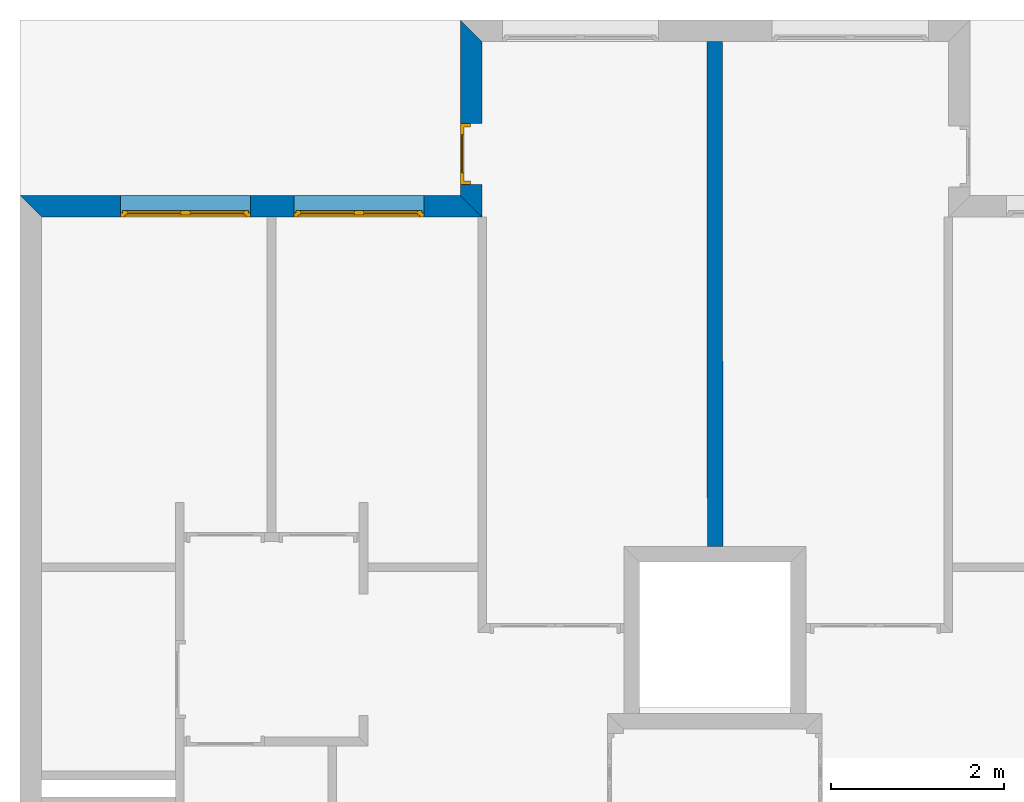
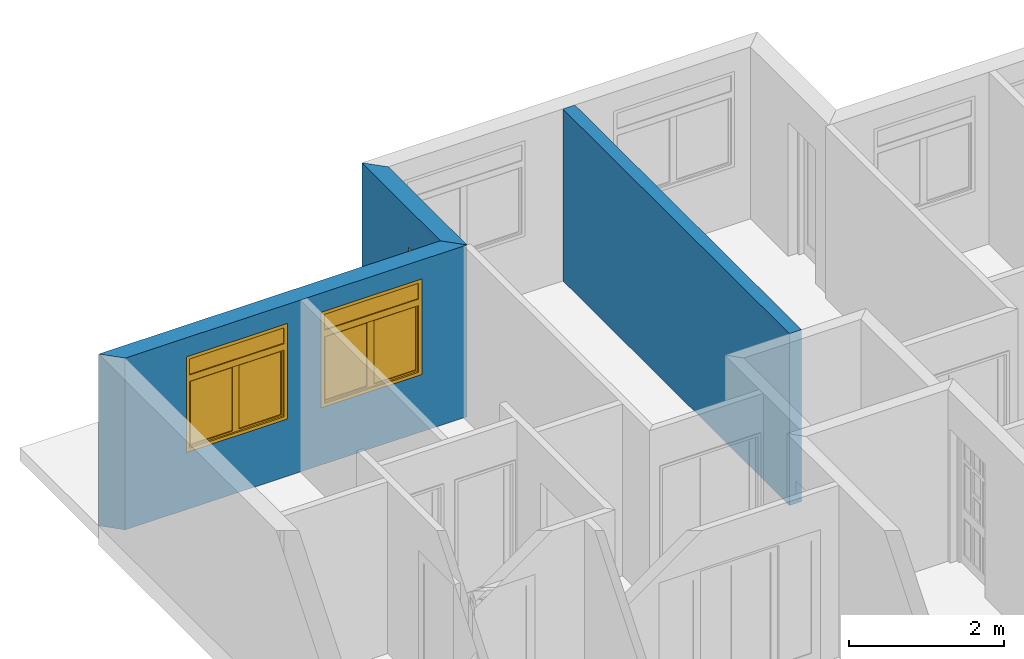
# One storey, part 10 of 12: 3 walls, 2 windows, 1 door, 3 openings.
"""IFC2X3 building model written with IfcOpenShell, lengths in metres."""

from ifc_helpers import new_model, entity, si_unit, converted_unit, direction, frame, frame_2d, origin_with_axes, place, context, project, spatial, polyline, rectangle, outline, extrude, faceted_brep, source, transform, mapped, material, layer, layer_set, layer_usage, type_object, element, fill, save


model = new_model("IFC2X3")

# Units and contexts
context_of_model = context(None, 3, precision=1e-05, world=origin_with_axes(), true_north=direction((6.123234e-17, 1.0)))
plan_context = context("Plan", 3, precision=1e-05, world=origin_with_axes(), true_north=direction((6.123234e-17, 1.0)))
model_context = context("Model", 3, precision=1e-05, world=origin_with_axes(), true_north=direction((6.123234e-17, 1.0)))
ifc_project = project(units=[si_unit("LENGTHUNIT", "METRE"), si_unit("AREAUNIT", "SQUARE_METRE"), si_unit("VOLUMEUNIT", "CUBIC_METRE"), converted_unit("PLANEANGLEUNIT", "DEGREE", entity("IfcPlaneAngleMeasure", 0.017453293), si_unit("PLANEANGLEUNIT", "RADIAN"), dimensions=[0, 0, 0, 0, 0, 0, 0]), si_unit("SOLIDANGLEUNIT", "STERADIAN"), si_unit("MASSUNIT", "GRAM"), si_unit("TIMEUNIT", "SECOND"), si_unit("THERMODYNAMICTEMPERATUREUNIT", "DEGREE_CELSIUS"), si_unit("LUMINOUSINTENSITYUNIT", "LUMEN")], contexts=[context_of_model, plan_context, model_context])

# Site, building, storey
site_placement = place(None, origin_with_axes())
site = spatial("IfcSite", under=ifc_project, at=site_placement, Name="Por defecto Sitio", CompositionType="ELEMENT")
building_placement = place(site_placement, origin_with_axes())
building = spatial("IfcBuilding", under=site, at=building_placement, Name="Por defecto Edificio", CompositionType="ELEMENT")
storey_placement = place(building_placement, frame((0.0, 0.0, 10.2), z_axis=(0.0, 0.0, 1.0), x_axis=(1.0, 0.0, 0.0)))
storey = spatial("IfcBuildingStorey", under=building, at=storey_placement, Name="Tercera", CompositionType="ELEMENT", Elevation=10.2)

# Wall, opening, door
ifc_material = material(Name="Ladrillo común")
ifc_layer_1 = layer(ifc_material, 0.25, ventilated="UNKNOWN")
ifc_layer_set_1 = layer_set([ifc_layer_1], Name="Ladrillo común")
ifc_layer_usage_1 = layer_usage(ifc_layer_set_1, "AXIS2", "NEGATIVE", 0.0)
wall_type_1 = type_object("IfcWallType", Name="Ladrillo común", PredefinedType="NOTDEFINED")
wall_1_placement = place(storey_placement, frame((5.0781164, 13.449173, 0.0), z_axis=(0.0, 0.0, 1.0), x_axis=(0.0, 1.0, 0.0)))
wall_1 = element("IfcWallStandardCase", 1, at=wall_1_placement, inside=storey, type_object=wall_type_1, material=ifc_layer_usage_1, Name="Muro-013", context=context_of_model, shape_type="SweptSolid", body=[
    extrude(outline(polyline([(-0.25, -0.25), (1.7734265, -0.25), (2.0234265, 0.0), (0.0, 0.0), (-0.25, -0.25)])), origin_with_axes(), (0.0, 0.0, 1.0), 2.7),
])
opening_1_placement = place(wall_1_placement, frame((0.47866866, -0.25, 0.0), z_axis=(0.0, 0.0, 1.0), x_axis=(1.0, 0.0, 0.0)))
opening_1 = element("IfcOpeningElement", 2, at=opening_1_placement, cuts=wall_1, ObjectType="Opening", context=model_context, shape_type="SweptSolid", body=[
    extrude(rectangle(XDim=0.7, YDim=2.1, at=frame_2d((0.0, 1.05), x_axis=(-1.0, 0.0))), frame((0.0, 0.0, 0.0), z_axis=(0.0, 1.0, 0.0), x_axis=(-1.0, 0.0, 0.0)), (0.0, 0.0, 1.0), 0.25),
])
door_style = type_object("IfcDoorStyle", Name="P1 12", ConstructionType="NOTDEFINED", OperationType="SINGLE_SWING_LEFT", ParameterTakesPrecedence=False, Sizeable=False)
shared_shape_1 = source(origin_with_axes(), model_context, "Body", "Brep", [
    faceted_brep([(0.66, 0.075, 0.0), (0.66, 0.0, 0.0), (0.66, 0.0, 2.06), (0.66, 0.075, 2.06), (0.672, 0.075, 0.0), (0.672, 0.115, 0.0), (0.7, 0.115, 0.0), (0.7, 0.0, 0.0), (0.7, 0.0, 2.06), (0.672, 0.075, 2.06), (0.7, 0.115, 2.06), (0.672, 0.115, 2.06)], [[[0, 1, 2, 3]], [[4, 5, 6, 7, 1, 0]], [[7, 8, 2, 1]], [[9, 3, 2, 8, 10, 11]], [[9, 4, 0, 3]], [[11, 5, 4, 9]], [[11, 10, 6, 5]], [[8, 7, 6, 10]]]),
    faceted_brep([(0.028, 0.075, 2.06), (0.028, 0.115, 2.06), (-1.4210855e-14, 0.115, 2.06), (-1.4210855e-14, 0.0, 2.06), (0.04, 0.0, 2.06), (0.04, 0.075, 2.06), (0.028, 0.075, 0.0), (0.028, 0.115, 0.0), (-1.4210855e-14, 0.115, 0.0), (0.0, 0.0, 0.0), (0.04, 0.0, 0.0), (0.04, 0.075, 0.0)], [[[0, 1, 2, 3, 4, 5]], [[0, 6, 7, 1]], [[7, 8, 2, 1]], [[9, 3, 2, 8]], [[10, 4, 3, 9]], [[5, 4, 10, 11]], [[5, 11, 6, 0]], [[6, 11, 10, 9, 8, 7]]]),
    faceted_brep([(0.672, 0.115, 2.072), (0.028, 0.115, 2.072), (0.028, 0.115, 2.06), (-1.4210855e-14, 0.115, 2.06), (-1.4210855e-14, 0.115, 2.1), (0.7, 0.115, 2.1), (0.7, 0.115, 2.06), (0.672, 0.115, 2.06), (0.672, 0.075, 2.072), (0.028, 0.075, 2.072), (0.028, 0.075, 2.06), (0.04, 0.075, 2.06), (0.04, 0.0, 2.06), (-1.4210855e-14, 0.0, 2.06), (-1.4210855e-14, 0.0, 2.1), (0.7, 0.0, 2.1), (0.7, 0.0, 2.06), (0.672, 0.075, 2.06), (0.66, 0.0, 2.06), (0.66, 0.075, 2.06)], [[[0, 1, 2, 3, 4, 5, 6, 7]], [[0, 8, 9, 1]], [[1, 9, 10, 2]], [[10, 11, 12, 13, 3, 2]], [[13, 14, 4, 3]], [[14, 15, 5, 4]], [[15, 16, 6, 5]], [[17, 7, 6, 16, 18, 19]], [[7, 17, 8, 0]], [[10, 9, 8, 17, 19, 11]], [[19, 18, 12, 11]], [[14, 13, 12, 18, 16, 15]]]),
    faceted_brep([(0.028, 0.115, 0.2), (0.128, 0.115, 0.2), (0.128, 0.075, 0.2), (0.028, 0.075, 0.2), (0.028, 0.115, 1.972), (0.128, 0.115, 1.972), (0.128, 0.075, 1.972), (0.028, 0.075, 1.972)], [[[0, 1, 2, 3]], [[0, 4, 5, 1]], [[1, 5, 6, 2]], [[3, 2, 6, 7]], [[4, 0, 3, 7]], [[5, 4, 7, 6]]]),
    faceted_brep([(0.672, 0.115, 0.2), (0.672, 0.115, 1.972), (0.672, 0.075, 1.972), (0.672, 0.075, 0.2), (0.572, 0.115, 0.2), (0.572, 0.115, 1.972), (0.572, 0.075, 1.972), (0.572, 0.075, 0.2)], [[[0, 1, 2, 3]], [[0, 4, 5, 1]], [[1, 5, 6, 2]], [[3, 2, 6, 7]], [[4, 0, 3, 7]], [[5, 4, 7, 6]]]),
    faceted_brep([(0.028, 0.115, 0.0), (0.672, 0.115, 0.0), (0.672, 0.075, 0.0), (0.028, 0.075, 0.0), (0.028, 0.115, 0.2), (0.128, 0.115, 0.2), (0.572, 0.115, 0.2), (0.672, 0.115, 0.2), (0.672, 0.075, 0.2), (0.572, 0.075, 0.2), (0.128, 0.075, 0.2), (0.028, 0.075, 0.2)], [[[0, 1, 2, 3]], [[0, 4, 5, 6, 7, 1]], [[1, 7, 8, 2]], [[3, 2, 8, 9, 10, 11]], [[4, 0, 3, 11]], [[5, 4, 11, 10]], [[6, 5, 10, 9]], [[7, 6, 9, 8]]]),
    faceted_brep([(0.028, 0.115, 2.072), (0.028, 0.115, 1.972), (0.028, 0.075, 1.972), (0.028, 0.075, 2.072), (0.672, 0.115, 2.072), (0.672, 0.115, 1.972), (0.572, 0.115, 1.972), (0.128, 0.115, 1.972), (0.128, 0.075, 1.972), (0.572, 0.075, 1.972), (0.672, 0.075, 1.972), (0.672, 0.075, 2.072)], [[[0, 1, 2, 3]], [[0, 4, 5, 6, 7, 1]], [[1, 7, 8, 2]], [[3, 2, 8, 9, 10, 11]], [[4, 0, 3, 11]], [[5, 4, 11, 10]], [[6, 5, 10, 9]], [[7, 6, 9, 8]]]),
    faceted_brep([(0.128, 0.101, 0.2), (0.572, 0.101, 0.2), (0.572, 0.089, 0.2), (0.128, 0.089, 0.2), (0.128, 0.101, 1.972), (0.572, 0.101, 1.972), (0.572, 0.089, 1.972), (0.128, 0.089, 1.972)], [[[0, 1, 2, 3]], [[0, 4, 5, 1]], [[1, 5, 6, 2]], [[3, 2, 6, 7]], [[4, 0, 3, 7]], [[5, 4, 7, 6]]]),
])
door_placement = place(opening_1_placement, frame((-0.35, 0.135, 0.0), z_axis=(0.0, 0.0, 1.0), x_axis=(1.0, 0.0, 0.0)))
door = element("IfcDoor", 3, at=door_placement, inside=storey, type_object=door_style, Name="P20", OverallHeight=2.1, OverallWidth=0.7, context=model_context, shape_type="MappedRepresentation", body=[
    mapped(shared_shape_1, transform((0.0, 0.0, 0.0), scale=1.0)),
])
fill(opening_1, door)

# Wall, openings, windows
ifc_layer_usage_2 = layer_usage(ifc_layer_set_1, "AXIS2", "NEGATIVE", 0.0)
wall_2_placement = place(storey_placement, frame((0.0, 13.449173, 0.0), z_axis=(0.0, 0.0, 1.0), x_axis=(1.0, 0.0, 0.0)))
wall_2 = element("IfcWallStandardCase", 4, at=wall_2_placement, inside=storey, type_object=wall_type_1, material=ifc_layer_usage_2, Name="Muro-012", context=context_of_model, shape_type="SweptSolid", body=[
    extrude(outline(polyline([(0.25, -0.25), (5.3281164, -0.25), (5.0781164, 0.0), (0.0, 0.0), (0.25, -0.25)])), origin_with_axes(), (0.0, 0.0, 1.0), 2.7),
])
opening_2_placement = place(wall_2_placement, frame((3.9080742, -0.25, 0.9), z_axis=(0.0, 0.0, 1.0), x_axis=(1.0, 0.0, 0.0)))
opening_2 = element("IfcOpeningElement", 5, at=opening_2_placement, cuts=wall_2, ObjectType="Opening", context=model_context, shape_type="SweptSolid", body=[
    extrude(rectangle(XDim=1.5, YDim=1.5, at=frame_2d((0.0, 0.75), x_axis=(-1.0, 0.0))), frame((0.0, 0.0, 0.0), z_axis=(0.0, 1.0, 0.0), x_axis=(-1.0, 0.0, 0.0)), (0.0, 0.0, 1.0), 0.25),
])
opening_3_placement = place(wall_2_placement, frame((1.9080742, -0.25, 0.9), z_axis=(0.0, 0.0, 1.0), x_axis=(1.0, 0.0, 0.0)))
opening_3 = element("IfcOpeningElement", 6, at=opening_3_placement, cuts=wall_2, ObjectType="Opening", context=model_context, shape_type="SweptSolid", body=[
    extrude(rectangle(XDim=1.5, YDim=1.5, at=frame_2d((0.0, 0.75), x_axis=(-1.0, 0.0))), frame((0.0, 0.0, 0.0), z_axis=(0.0, 1.0, 0.0), x_axis=(-1.0, 0.0, 0.0)), (0.0, 0.0, 1.0), 0.25),
])
window_style_1 = type_object("IfcWindowStyle", Name="V M Doble 12", ConstructionType="NOTDEFINED", OperationType="DOUBLE_PANEL_HORIZONTAL", ParameterTakesPrecedence=False, Sizeable=False)
shared_shape_2 = source(origin_with_axes(), model_context, "Body", "Brep", [
    faceted_brep([(0.025, 0.05, 0.05), (0.0, 0.05, 0.05), (0.0, 0.05, 1.45), (0.05, 0.05, 1.45), (0.05, 0.05, 1.2), (0.05, 0.05, 1.125), (0.025, 0.05, 1.125), (0.025, 0.025, 0.05), (0.05, 0.025, 0.05), (0.05, 0.0, 0.05), (0.0, 0.0, 0.05), (0.0, 0.0, 1.45), (0.05, 0.0, 1.45), (0.05, 0.0, 1.2), (0.05, 0.025, 1.125), (0.05, 0.0, 1.1), (0.05, 0.025, 1.1), (0.025, 0.025, 1.125)], [[[0, 1, 2, 3, 4, 5, 6]], [[7, 8, 9, 10, 1, 0]], [[2, 1, 10, 11]], [[3, 2, 11, 12]], [[4, 3, 12, 13]], [[14, 5, 4, 13, 15, 16]], [[14, 17, 6, 5]], [[6, 17, 7, 0]], [[16, 8, 7, 17, 14]], [[16, 15, 9, 8]], [[13, 12, 11, 10, 9, 15]]]),
    faceted_brep([(1.475, 0.05, 1.125), (1.45, 0.05, 1.125), (1.45, 0.05, 1.2), (1.45, 0.05, 1.45), (1.5, 0.05, 1.45), (1.5, 0.05, 0.05), (1.475, 0.05, 0.05), (1.475, 0.025, 1.125), (1.45, 0.025, 1.125), (1.45, 0.025, 1.1), (1.45, 0.0, 1.1), (1.45, 0.0, 1.2), (1.45, 0.0, 1.45), (1.5, 0.0, 1.45), (1.5, 0.0, 0.05), (1.475, 0.025, 0.05), (1.45, 0.0, 0.05), (1.45, 0.025, 0.05)], [[[0, 1, 2, 3, 4, 5, 6]], [[0, 7, 8, 1]], [[8, 9, 10, 11, 2, 1]], [[3, 2, 11, 12]], [[4, 3, 12, 13]], [[5, 4, 13, 14]], [[15, 6, 5, 14, 16, 17]], [[6, 15, 7, 0]], [[17, 9, 8, 7, 15]], [[17, 16, 10, 9]], [[14, 13, 12, 11, 10, 16]]]),
    faceted_brep([(0.05, 0.05, 1.125), (0.05, 0.05, 1.2), (1.45, 0.05, 1.2), (1.45, 0.05, 1.125), (0.75, 0.05, 1.125), (0.05, 0.025, 1.125), (0.05, 0.025, 1.1), (0.05, 0.0, 1.1), (0.05, 0.0, 1.2), (1.45, 0.0, 1.2), (1.45, 0.025, 1.125), (1.45, 0.0, 1.1), (1.45, 0.025, 1.1), (0.75, 0.025, 1.125)], [[[0, 1, 2, 3, 4]], [[5, 6, 7, 8, 1, 0]], [[2, 1, 8, 9]], [[10, 3, 2, 9, 11, 12]], [[10, 13, 4, 3]], [[4, 13, 5, 0]], [[12, 6, 5, 13, 10]], [[12, 11, 7, 6]], [[9, 8, 7, 11]]]),
    faceted_brep([(1.45, 0.025, 0.05), (1.45, 0.0, 0.05), (1.5, 0.0, 0.05), (1.5, 0.05, 0.05), (1.475, 0.05, 0.05), (1.475, 0.025, 0.05), (0.05, 0.025, 0.05), (0.05, 0.0, 0.05), (0.0, 0.0, 0.05), (0.0, 0.0, 0.0), (1.5, 0.0, 0.0), (1.5, 0.05, 0.0), (0.025, 0.05, 0.025), (0.75, 0.05, 0.025), (1.475, 0.05, 0.025), (0.0, 0.05, 0.0), (0.0, 0.05, 0.05), (0.025, 0.05, 0.05), (1.475, 0.025, 0.025), (0.75, 0.025, 0.025), (0.025, 0.025, 0.025), (0.025, 0.025, 0.05)], [[[0, 1, 2, 3, 4, 5]], [[6, 7, 1, 0]], [[8, 9, 10, 2, 1, 7]], [[11, 3, 2, 10]], [[12, 13, 14, 4, 3, 11, 15, 16, 17]], [[14, 18, 5, 4]], [[5, 18, 19, 20, 21, 6, 0]], [[21, 17, 16, 8, 7, 6]], [[16, 15, 9, 8]], [[15, 11, 10, 9]], [[12, 20, 19, 13]], [[13, 19, 18, 14]], [[21, 20, 12, 17]]]),
    faceted_brep([(1.45, 0.0, 1.45), (1.45, 0.05, 1.45), (1.5, 0.05, 1.45), (1.5, 0.0, 1.45), (0.05, 0.0, 1.45), (0.05, 0.05, 1.45), (0.0, 0.05, 1.45), (0.0, 0.05, 1.5), (1.5, 0.05, 1.5), (1.5, 0.0, 1.5), (0.0, 0.0, 1.5), (0.0, 0.0, 1.45)], [[[0, 1, 2, 3]], [[4, 5, 1, 0]], [[1, 5, 6, 7, 8, 2]], [[3, 2, 8, 9]], [[0, 3, 9, 10, 11, 4]], [[11, 6, 5, 4]], [[10, 7, 6, 11]], [[9, 8, 7, 10]]]),
    faceted_brep([(1.425, 0.025, 0.075), (1.425, 0.025, 1.075), (1.425, 0.075, 1.075), (1.425, 0.075, 0.075), (1.475, 0.025, 0.075), (1.475, 0.025, 1.075), (1.475, 0.075, 1.075), (1.475, 0.075, 0.075)], [[[0, 1, 2, 3]], [[0, 4, 5, 1]], [[1, 5, 6, 2]], [[3, 2, 6, 7]], [[4, 0, 3, 7]], [[5, 4, 7, 6]]]),
    faceted_brep([(0.75, 0.025, 0.075), (0.75, 0.025, 1.075), (0.75, 0.075, 1.075), (0.75, 0.075, 0.075), (0.8, 0.025, 0.075), (0.8, 0.025, 1.075), (0.8, 0.075, 1.075), (0.8, 0.075, 0.075)], [[[0, 1, 2, 3]], [[0, 4, 5, 1]], [[1, 5, 6, 2]], [[3, 2, 6, 7]], [[4, 0, 3, 7]], [[5, 4, 7, 6]]]),
    faceted_brep([(0.75, 0.025, 0.025), (0.75, 0.025, 0.075), (0.75, 0.075, 0.075), (0.75, 0.075, 0.025), (1.475, 0.025, 0.025), (1.475, 0.025, 0.075), (1.425, 0.025, 0.075), (0.8, 0.025, 0.075), (0.8, 0.075, 0.075), (1.425, 0.075, 0.075), (1.475, 0.075, 0.075), (1.475, 0.075, 0.025)], [[[0, 1, 2, 3]], [[0, 4, 5, 6, 7, 1]], [[1, 7, 8, 2]], [[3, 2, 8, 9, 10, 11]], [[4, 0, 3, 11]], [[5, 4, 11, 10]], [[6, 5, 10, 9]], [[7, 6, 9, 8]]]),
    faceted_brep([(1.475, 0.025, 1.125), (1.475, 0.025, 1.075), (1.475, 0.075, 1.075), (1.475, 0.075, 1.125), (0.75, 0.025, 1.125), (0.75, 0.025, 1.075), (0.8, 0.025, 1.075), (1.425, 0.025, 1.075), (1.425, 0.075, 1.075), (0.8, 0.075, 1.075), (0.75, 0.075, 1.075), (0.75, 0.075, 1.125)], [[[0, 1, 2, 3]], [[0, 4, 5, 6, 7, 1]], [[1, 7, 8, 2]], [[3, 2, 8, 9, 10, 11]], [[4, 0, 3, 11]], [[5, 4, 11, 10]], [[6, 5, 10, 9]], [[7, 6, 9, 8]]]),
    faceted_brep([(1.425, 0.04, 0.075), (0.8, 0.04, 0.075), (0.8, 0.06, 0.075), (1.425, 0.06, 0.075), (1.425, 0.04, 1.075), (0.8, 0.04, 1.075), (0.8, 0.06, 1.075), (1.425, 0.06, 1.075)], [[[0, 1, 2, 3]], [[0, 4, 5, 1]], [[1, 5, 6, 2]], [[3, 2, 6, 7]], [[4, 0, 3, 7]], [[5, 4, 7, 6]]]),
    faceted_brep([(0.7, 0.025, 0.075), (0.7, 0.025, 1.075), (0.7, 0.075, 1.075), (0.7, 0.075, 0.075), (0.75, 0.025, 0.075), (0.75, 0.025, 1.075), (0.75, 0.075, 1.075), (0.75, 0.075, 0.075)], [[[0, 1, 2, 3]], [[0, 4, 5, 1]], [[1, 5, 6, 2]], [[3, 2, 6, 7]], [[4, 0, 3, 7]], [[5, 4, 7, 6]]]),
    faceted_brep([(0.025, 0.025, 0.075), (0.025, 0.025, 1.075), (0.025, 0.075, 1.075), (0.025, 0.075, 0.075), (0.075, 0.025, 0.075), (0.075, 0.025, 1.075), (0.075, 0.075, 1.075), (0.075, 0.075, 0.075)], [[[0, 1, 2, 3]], [[0, 4, 5, 1]], [[1, 5, 6, 2]], [[3, 2, 6, 7]], [[4, 0, 3, 7]], [[5, 4, 7, 6]]]),
    faceted_brep([(0.025, 0.025, 0.025), (0.025, 0.025, 0.075), (0.025, 0.075, 0.075), (0.025, 0.075, 0.025), (0.75, 0.025, 0.025), (0.75, 0.025, 0.075), (0.7, 0.025, 0.075), (0.075, 0.025, 0.075), (0.075, 0.075, 0.075), (0.7, 0.075, 0.075), (0.75, 0.075, 0.075), (0.75, 0.075, 0.025)], [[[0, 1, 2, 3]], [[0, 4, 5, 6, 7, 1]], [[1, 7, 8, 2]], [[3, 2, 8, 9, 10, 11]], [[4, 0, 3, 11]], [[5, 4, 11, 10]], [[6, 5, 10, 9]], [[7, 6, 9, 8]]]),
    faceted_brep([(0.75, 0.025, 1.125), (0.75, 0.025, 1.075), (0.75, 0.075, 1.075), (0.75, 0.075, 1.125), (0.025, 0.025, 1.125), (0.025, 0.025, 1.075), (0.075, 0.025, 1.075), (0.7, 0.025, 1.075), (0.7, 0.075, 1.075), (0.075, 0.075, 1.075), (0.025, 0.075, 1.075), (0.025, 0.075, 1.125)], [[[0, 1, 2, 3]], [[0, 4, 5, 6, 7, 1]], [[1, 7, 8, 2]], [[3, 2, 8, 9, 10, 11]], [[4, 0, 3, 11]], [[5, 4, 11, 10]], [[6, 5, 10, 9]], [[7, 6, 9, 8]]]),
    faceted_brep([(0.7, 0.04, 0.075), (0.075, 0.04, 0.075), (0.075, 0.06, 0.075), (0.7, 0.06, 0.075), (0.7, 0.04, 1.075), (0.075, 0.04, 1.075), (0.075, 0.06, 1.075), (0.7, 0.06, 1.075)], [[[0, 1, 2, 3]], [[0, 4, 5, 1]], [[1, 5, 6, 2]], [[3, 2, 6, 7]], [[4, 0, 3, 7]], [[5, 4, 7, 6]]]),
    faceted_brep([(1.45, 0.015, 1.2), (0.05, 0.015, 1.2), (0.05, 0.035, 1.2), (1.45, 0.035, 1.2), (1.45, 0.015, 1.45), (0.05, 0.015, 1.45), (0.05, 0.035, 1.45), (1.45, 0.035, 1.45)], [[[0, 1, 2, 3]], [[0, 4, 5, 1]], [[1, 5, 6, 2]], [[3, 2, 6, 7]], [[4, 0, 3, 7]], [[5, 4, 7, 6]]]),
])
window_1_placement = place(opening_2_placement, frame((-0.75, 0.0, 0.0), z_axis=(0.0, 0.0, 1.0), x_axis=(1.0, 0.0, 0.0)))
window_1 = element("IfcWindow", 7, at=window_1_placement, inside=storey, type_object=window_style_1, Name="V08", OverallHeight=1.5, OverallWidth=1.5, context=model_context, shape_type="MappedRepresentation", body=[
    mapped(shared_shape_2, transform((0.0, 0.0, 0.0), scale=1.0)),
])
fill(opening_2, window_1)
window_style_2 = type_object("IfcWindowStyle", Name="V M Doble 12", ConstructionType="NOTDEFINED", OperationType="DOUBLE_PANEL_HORIZONTAL", ParameterTakesPrecedence=False, Sizeable=False)
shared_shape_3 = source(origin_with_axes(), model_context, "Body", "Brep", [
    faceted_brep([(1.475, 0.05, 0.05), (1.475, 0.05, 1.125), (1.45, 0.05, 1.125), (1.45, 0.05, 1.2), (1.45, 0.05, 1.45), (1.5, 0.05, 1.45), (1.5, 0.05, 0.05), (1.475, 0.025, 0.05), (1.475, 0.025, 1.125), (1.45, 0.025, 1.125), (1.45, 0.025, 1.1), (1.45, 0.0, 1.1), (1.45, 0.0, 1.2), (1.45, 0.0, 1.45), (1.5, 0.0, 1.45), (1.5, 0.0, 0.05), (1.45, 0.0, 0.05), (1.45, 0.025, 0.05)], [[[0, 1, 2, 3, 4, 5, 6]], [[1, 0, 7, 8]], [[9, 2, 1, 8]], [[9, 10, 11, 12, 3, 2]], [[3, 12, 13, 4]], [[4, 13, 14, 5]], [[5, 14, 15, 6]], [[7, 0, 6, 15, 16, 17]], [[10, 9, 8, 7, 17]], [[10, 17, 16, 11]], [[12, 11, 16, 15, 14, 13]]]),
    faceted_brep([(0.025, 0.05, 1.125), (0.025, 0.05, 0.05), (0.0, 0.05, 0.05), (0.0, 0.05, 1.45), (0.05, 0.05, 1.45), (0.05, 0.05, 1.2), (0.05, 0.05, 1.125), (0.025, 0.025, 1.125), (0.025, 0.025, 0.05), (0.05, 0.025, 0.05), (0.05, 0.0, 0.05), (0.0, 0.0, 0.05), (0.0, 0.0, 1.45), (0.05, 0.0, 1.45), (0.05, 0.0, 1.2), (0.05, 0.025, 1.125), (0.05, 0.0, 1.1), (0.05, 0.025, 1.1)], [[[0, 1, 2, 3, 4, 5, 6]], [[1, 0, 7, 8]], [[8, 9, 10, 11, 2, 1]], [[2, 11, 12, 3]], [[3, 12, 13, 4]], [[4, 13, 14, 5]], [[15, 6, 5, 14, 16, 17]], [[0, 6, 15, 7]], [[9, 8, 7, 15, 17]], [[9, 17, 16, 10]], [[11, 10, 16, 14, 13, 12]]]),
    faceted_brep([(1.45, 0.05, 1.125), (0.75, 0.05, 1.125), (0.05, 0.05, 1.125), (0.05, 0.05, 1.2), (1.45, 0.05, 1.2), (1.45, 0.025, 1.125), (0.75, 0.025, 1.125), (0.05, 0.025, 1.125), (0.05, 0.025, 1.1), (0.05, 0.0, 1.1), (0.05, 0.0, 1.2), (1.45, 0.0, 1.2), (1.45, 0.0, 1.1), (1.45, 0.025, 1.1)], [[[0, 1, 2, 3, 4]], [[1, 0, 5, 6]], [[7, 2, 1, 6]], [[7, 8, 9, 10, 3, 2]], [[3, 10, 11, 4]], [[5, 0, 4, 11, 12, 13]], [[8, 7, 6, 5, 13]], [[8, 13, 12, 9]], [[10, 9, 12, 11]]]),
    faceted_brep([(0.05, 0.025, 0.05), (0.025, 0.025, 0.05), (0.025, 0.05, 0.05), (0.0, 0.05, 0.05), (0.0, 0.0, 0.05), (0.05, 0.0, 0.05), (1.45, 0.025, 0.05), (1.475, 0.025, 0.05), (1.475, 0.025, 0.025), (0.75, 0.025, 0.025), (0.025, 0.025, 0.025), (0.025, 0.05, 0.025), (1.475, 0.05, 0.025), (1.475, 0.05, 0.05), (1.5, 0.05, 0.05), (1.5, 0.05, 0.0), (0.0, 0.05, 0.0), (0.75, 0.05, 0.025), (0.0, 0.0, 0.0), (1.5, 0.0, 0.05), (1.45, 0.0, 0.05), (1.5, 0.0, 0.0)], [[[0, 1, 2, 3, 4, 5]], [[1, 0, 6, 7, 8, 9, 10]], [[11, 2, 1, 10]], [[12, 13, 14, 15, 16, 3, 2, 11, 17]], [[16, 18, 4, 3]], [[19, 20, 5, 4, 18, 21]], [[6, 0, 5, 20]], [[7, 6, 20, 19, 14, 13]], [[7, 13, 12, 8]], [[12, 17, 9, 8]], [[17, 11, 10, 9]], [[14, 19, 21, 15]], [[15, 21, 18, 16]]]),
    faceted_brep([(0.05, 0.0, 1.45), (0.0, 0.0, 1.45), (0.0, 0.05, 1.45), (0.05, 0.05, 1.45), (1.45, 0.0, 1.45), (1.5, 0.0, 1.45), (1.5, 0.0, 1.5), (0.0, 0.0, 1.5), (0.0, 0.05, 1.5), (1.5, 0.05, 1.5), (1.5, 0.05, 1.45), (1.45, 0.05, 1.45)], [[[0, 1, 2, 3]], [[0, 4, 5, 6, 7, 1]], [[1, 7, 8, 2]], [[3, 2, 8, 9, 10, 11]], [[4, 0, 3, 11]], [[5, 4, 11, 10]], [[6, 5, 10, 9]], [[7, 6, 9, 8]]]),
    faceted_brep([(0.075, 0.025, 0.075), (0.075, 0.075, 0.075), (0.075, 0.075, 1.075), (0.075, 0.025, 1.075), (0.025, 0.025, 0.075), (0.025, 0.075, 0.075), (0.025, 0.075, 1.075), (0.025, 0.025, 1.075)], [[[0, 1, 2, 3]], [[4, 5, 1, 0]], [[1, 5, 6, 2]], [[3, 2, 6, 7]], [[0, 3, 7, 4]], [[7, 6, 5, 4]]]),
    faceted_brep([(0.75, 0.025, 0.075), (0.75, 0.075, 0.075), (0.75, 0.075, 1.075), (0.75, 0.025, 1.075), (0.7, 0.025, 0.075), (0.7, 0.075, 0.075), (0.7, 0.075, 1.075), (0.7, 0.025, 1.075)], [[[0, 1, 2, 3]], [[4, 5, 1, 0]], [[1, 5, 6, 2]], [[3, 2, 6, 7]], [[0, 3, 7, 4]], [[7, 6, 5, 4]]]),
    faceted_brep([(0.75, 0.025, 0.025), (0.75, 0.075, 0.025), (0.75, 0.075, 0.075), (0.75, 0.025, 0.075), (0.025, 0.025, 0.025), (0.025, 0.075, 0.025), (0.025, 0.075, 0.075), (0.075, 0.075, 0.075), (0.7, 0.075, 0.075), (0.7, 0.025, 0.075), (0.075, 0.025, 0.075), (0.025, 0.025, 0.075)], [[[0, 1, 2, 3]], [[4, 5, 1, 0]], [[1, 5, 6, 7, 8, 2]], [[3, 2, 8, 9]], [[0, 3, 9, 10, 11, 4]], [[11, 6, 5, 4]], [[10, 7, 6, 11]], [[9, 8, 7, 10]]]),
    faceted_brep([(0.025, 0.025, 1.125), (0.025, 0.075, 1.125), (0.025, 0.075, 1.075), (0.025, 0.025, 1.075), (0.75, 0.025, 1.125), (0.75, 0.075, 1.125), (0.75, 0.075, 1.075), (0.7, 0.075, 1.075), (0.075, 0.075, 1.075), (0.075, 0.025, 1.075), (0.7, 0.025, 1.075), (0.75, 0.025, 1.075)], [[[0, 1, 2, 3]], [[4, 5, 1, 0]], [[1, 5, 6, 7, 8, 2]], [[3, 2, 8, 9]], [[0, 3, 9, 10, 11, 4]], [[11, 6, 5, 4]], [[10, 7, 6, 11]], [[9, 8, 7, 10]]]),
    faceted_brep([(0.075, 0.04, 0.075), (0.075, 0.06, 0.075), (0.7, 0.06, 0.075), (0.7, 0.04, 0.075), (0.075, 0.04, 1.075), (0.075, 0.06, 1.075), (0.7, 0.06, 1.075), (0.7, 0.04, 1.075)], [[[0, 1, 2, 3]], [[4, 5, 1, 0]], [[1, 5, 6, 2]], [[3, 2, 6, 7]], [[0, 3, 7, 4]], [[7, 6, 5, 4]]]),
    faceted_brep([(0.8, 0.025, 0.075), (0.8, 0.075, 0.075), (0.8, 0.075, 1.075), (0.8, 0.025, 1.075), (0.75, 0.025, 0.075), (0.75, 0.075, 0.075), (0.75, 0.075, 1.075), (0.75, 0.025, 1.075)], [[[0, 1, 2, 3]], [[4, 5, 1, 0]], [[1, 5, 6, 2]], [[3, 2, 6, 7]], [[0, 3, 7, 4]], [[7, 6, 5, 4]]]),
    faceted_brep([(1.475, 0.025, 0.075), (1.475, 0.075, 0.075), (1.475, 0.075, 1.075), (1.475, 0.025, 1.075), (1.425, 0.025, 0.075), (1.425, 0.075, 0.075), (1.425, 0.075, 1.075), (1.425, 0.025, 1.075)], [[[0, 1, 2, 3]], [[4, 5, 1, 0]], [[1, 5, 6, 2]], [[3, 2, 6, 7]], [[0, 3, 7, 4]], [[7, 6, 5, 4]]]),
    faceted_brep([(1.475, 0.025, 0.025), (1.475, 0.075, 0.025), (1.475, 0.075, 0.075), (1.475, 0.025, 0.075), (0.75, 0.025, 0.025), (0.75, 0.075, 0.025), (0.75, 0.075, 0.075), (0.8, 0.075, 0.075), (1.425, 0.075, 0.075), (1.425, 0.025, 0.075), (0.8, 0.025, 0.075), (0.75, 0.025, 0.075)], [[[0, 1, 2, 3]], [[4, 5, 1, 0]], [[1, 5, 6, 7, 8, 2]], [[3, 2, 8, 9]], [[0, 3, 9, 10, 11, 4]], [[11, 6, 5, 4]], [[10, 7, 6, 11]], [[9, 8, 7, 10]]]),
    faceted_brep([(0.75, 0.025, 1.125), (0.75, 0.075, 1.125), (0.75, 0.075, 1.075), (0.75, 0.025, 1.075), (1.475, 0.025, 1.125), (1.475, 0.075, 1.125), (1.475, 0.075, 1.075), (1.425, 0.075, 1.075), (0.8, 0.075, 1.075), (0.8, 0.025, 1.075), (1.425, 0.025, 1.075), (1.475, 0.025, 1.075)], [[[0, 1, 2, 3]], [[4, 5, 1, 0]], [[1, 5, 6, 7, 8, 2]], [[3, 2, 8, 9]], [[0, 3, 9, 10, 11, 4]], [[11, 6, 5, 4]], [[10, 7, 6, 11]], [[9, 8, 7, 10]]]),
    faceted_brep([(0.8, 0.04, 0.075), (0.8, 0.06, 0.075), (1.425, 0.06, 0.075), (1.425, 0.04, 0.075), (0.8, 0.04, 1.075), (0.8, 0.06, 1.075), (1.425, 0.06, 1.075), (1.425, 0.04, 1.075)], [[[0, 1, 2, 3]], [[4, 5, 1, 0]], [[1, 5, 6, 2]], [[3, 2, 6, 7]], [[0, 3, 7, 4]], [[7, 6, 5, 4]]]),
    faceted_brep([(0.05, 0.015, 1.2), (0.05, 0.035, 1.2), (1.45, 0.035, 1.2), (1.45, 0.015, 1.2), (0.05, 0.015, 1.45), (0.05, 0.035, 1.45), (1.45, 0.035, 1.45), (1.45, 0.015, 1.45)], [[[0, 1, 2, 3]], [[4, 5, 1, 0]], [[1, 5, 6, 2]], [[3, 2, 6, 7]], [[0, 3, 7, 4]], [[7, 6, 5, 4]]]),
])
window_2_placement = place(opening_3_placement, frame((-0.75, 0.0, 0.0), z_axis=(0.0, 0.0, 1.0), x_axis=(1.0, 0.0, 0.0)))
window_2 = element("IfcWindow", 8, at=window_2_placement, inside=storey, type_object=window_style_2, Name="V09", OverallHeight=1.5, OverallWidth=1.5, context=model_context, shape_type="MappedRepresentation", body=[
    mapped(shared_shape_3, transform((0.0, 0.0, 0.0), scale=1.0)),
])
fill(opening_3, window_2)

# Wall
ifc_layer_2 = layer(ifc_material, 0.18, ventilated="UNKNOWN")
ifc_layer_set_2 = layer_set([ifc_layer_2], Name="Ladrillo común")
ifc_layer_usage_3 = layer_usage(ifc_layer_set_2, "AXIS2", "NEGATIVE", 0.09)
wall_type_2 = type_object("IfcWallType", Name="Ladrillo común", PredefinedType="NOTDEFINED")
wall_3_placement = place(storey_placement, frame((8.014856, 9.4007615, 0.0), z_axis=(0.0, 0.0, 1.0), x_axis=(-0.00079976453, 0.99999968, 0.0)))
element("IfcWallStandardCase", 9, at=wall_3_placement, inside=storey, type_object=wall_type_2, material=ifc_layer_usage_3, Name="Muro-018", context=context_of_model, shape_type="SweptSolid", body=[
    extrude(outline(polyline([(-7.1978831e-05, -0.09), (5.8217675, -0.09), (5.8219114, 0.09), (7.1978831e-05, 0.09), (-7.1978831e-05, -0.09)])), origin_with_axes(), (0.0, 0.0, 1.0), 2.7),
])

save(model, "model.ifc")
